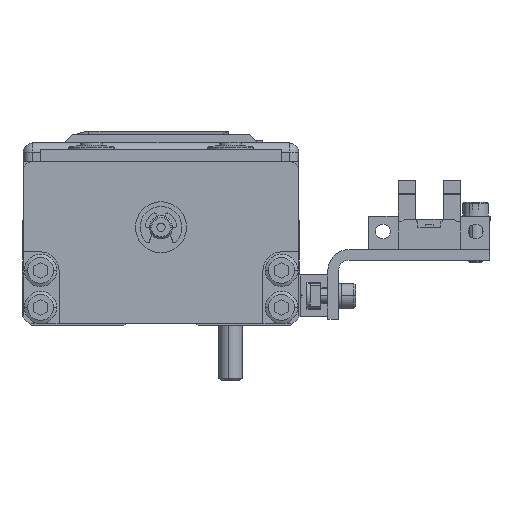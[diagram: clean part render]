
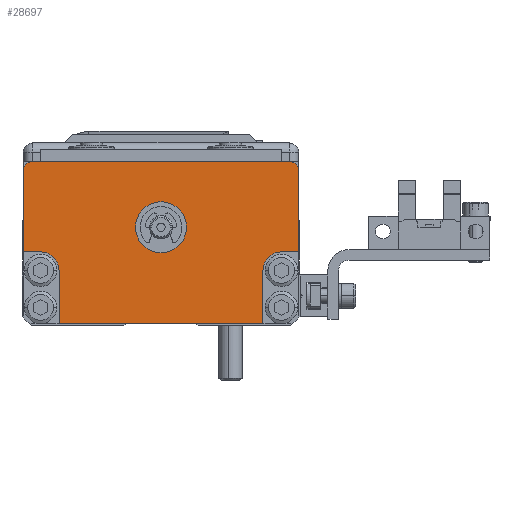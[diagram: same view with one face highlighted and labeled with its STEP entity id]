
A CAD part, left-side view. The second image highlights one B-rep face of the part: STEP entity #28697.
In plain terms, the highlighted planar face has unit normal (-1, 0, 0) as drawn and (1, 0, 0) by its records, which use the part's own axes.
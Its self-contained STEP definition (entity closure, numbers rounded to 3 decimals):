
#575 = CARTESIAN_POINT ( 'NONE',  ( 11., -9.3, 22. ) ) ;
#1215 = DIRECTION ( 'NONE',  ( 0., 1., 0. ) ) ;
#1476 = VERTEX_POINT ( 'NONE', #33427 ) ;
#1865 = VECTOR ( 'NONE', #59098, 1000. ) ;
#2212 = CARTESIAN_POINT ( 'NONE',  ( 11., -20.8, -22. ) ) ;
#2292 = ORIENTED_EDGE ( 'NONE', *, *, #16862, .F. ) ;
#3071 = VERTEX_POINT ( 'NONE', #48964 ) ;
#4400 = VECTOR ( 'NONE', #8915, 1000. ) ;
#5304 = DIRECTION ( 'NONE',  ( 0., 0., 1. ) ) ;
#5457 = CIRCLE ( 'NONE', #53574, 5.5 ) ;
#5976 = DIRECTION ( 'NONE',  ( 1., 0., 0. ) ) ;
#6081 = ORIENTED_EDGE ( 'NONE', *, *, #6658, .F. ) ;
#6234 = CARTESIAN_POINT ( 'NONE',  ( 11., -21.3, 0. ) ) ;
#6442 = ORIENTED_EDGE ( 'NONE', *, *, #52099, .F. ) ;
#6643 = LINE ( 'NONE', #31006, #23474 ) ;
#6658 = EDGE_CURVE ( 'NONE', #46048, #60021, #5457, .T. ) ;
#7630 = ORIENTED_EDGE ( 'NONE', *, *, #14937, .F. ) ;
#8915 = DIRECTION ( 'NONE',  ( 0., 0., 1. ) ) ;
#9201 = CIRCLE ( 'NONE', #60155, 4. ) ;
#9739 = CARTESIAN_POINT ( 'NONE',  ( 11., -20.8, -29.7 ) ) ;
#9959 = CARTESIAN_POINT ( 'NONE',  ( 11., -5.3, 29.7 ) ) ;
#11604 = VECTOR ( 'NONE', #17953, 1000. ) ;
#11993 = CARTESIAN_POINT ( 'NONE',  ( 11., -20.8, 29.7 ) ) ;
#13079 = LINE ( 'NONE', #13227, #11604 ) ;
#13130 = EDGE_CURVE ( 'NONE', #37909, #17597, #6643, .T. ) ;
#13227 = CARTESIAN_POINT ( 'NONE',  ( 11., 14.2, 29.7 ) ) ;
#14397 = LINE ( 'NONE', #9739, #33412 ) ;
#14446 = ORIENTED_EDGE ( 'NONE', *, *, #50173, .F. ) ;
#14863 = DIRECTION ( 'NONE',  ( -1., 0., 0. ) ) ;
#14937 = EDGE_CURVE ( 'NONE', #51862, #3071, #9201, .T. ) ;
#14939 = ORIENTED_EDGE ( 'NONE', *, *, #47213, .F. ) ;
#15531 = CARTESIAN_POINT ( 'NONE',  ( 11., -9.3, -26. ) ) ;
#16084 = LINE ( 'NONE', #26799, #4400 ) ;
#16221 = EDGE_LOOP ( 'NONE', ( #57815, #45965, #38751, #42265, #49368, #6442, #25576, #14446, #7630, #2292, #58412, #14939 ) ) ;
#16331 = CARTESIAN_POINT ( 'NONE',  ( 11., 12.2, -29.7 ) ) ;
#16496 = DIRECTION ( 'NONE',  ( 1., 0., 0. ) ) ;
#16862 = EDGE_CURVE ( 'NONE', #25169, #51862, #38689, .T. ) ;
#17291 = CARTESIAN_POINT ( 'NONE',  ( 11., 0., 0. ) ) ;
#17374 = CIRCLE ( 'NONE', #24741, 5.5 ) ;
#17597 = VERTEX_POINT ( 'NONE', #2212 ) ;
#17747 = DIRECTION ( 'NONE',  ( 0., 0., 1. ) ) ;
#17953 = DIRECTION ( 'NONE',  ( 0., 0., 1. ) ) ;
#18006 = EDGE_CURVE ( 'NONE', #60300, #52235, #13079, .T. ) ;
#18877 = CARTESIAN_POINT ( 'NONE',  ( 11., 14.2, -27.7 ) ) ;
#19944 = DIRECTION ( 'NONE',  ( 0., 0., 1. ) ) ;
#22381 = VERTEX_POINT ( 'NONE', #9959 ) ;
#22746 = DIRECTION ( 'NONE',  ( 0., -1., 0. ) ) ;
#23410 = VECTOR ( 'NONE', #17747, 1000. ) ;
#23474 = VECTOR ( 'NONE', #27774, 1000. ) ;
#23562 = CIRCLE ( 'NONE', #45484, 4. ) ;
#24741 = AXIS2_PLACEMENT_3D ( 'NONE', #50487, #55130, #32034 ) ;
#25169 = VERTEX_POINT ( 'NONE', #35238 ) ;
#25576 = ORIENTED_EDGE ( 'NONE', *, *, #13130, .T. ) ;
#25756 = DIRECTION ( 'NONE',  ( 0., 0., -1. ) ) ;
#25811 = DIRECTION ( 'NONE',  ( 0., 0., -1. ) ) ;
#26158 = FACE_BOUND ( 'NONE', #46247, .T. ) ;
#26799 = CARTESIAN_POINT ( 'NONE',  ( 11., -5.3, 0. ) ) ;
#26882 = CARTESIAN_POINT ( 'NONE',  ( 11., -21.3, -22. ) ) ;
#27774 = DIRECTION ( 'NONE',  ( 0., 0., -1. ) ) ;
#28697 = ADVANCED_FACE ( 'NONE', ( #26158, #44255 ), #34165, .F. ) ;
#29876 = CARTESIAN_POINT ( 'NONE',  ( 11., 14.2, 27.7 ) ) ;
#31006 = CARTESIAN_POINT ( 'NONE',  ( 11., -20.8, 29.7 ) ) ;
#31179 = VERTEX_POINT ( 'NONE', #34214 ) ;
#32034 = DIRECTION ( 'NONE',  ( 0., 0., -1. ) ) ;
#33412 = VECTOR ( 'NONE', #42395, 1000. ) ;
#33427 = CARTESIAN_POINT ( 'NONE',  ( 11., -5.3, 26. ) ) ;
#34165 = PLANE ( 'NONE',  #56872 ) ;
#34214 = CARTESIAN_POINT ( 'NONE',  ( 11., 12.2, 29.7 ) ) ;
#35238 = CARTESIAN_POINT ( 'NONE',  ( 11., -5.3, -29.7 ) ) ;
#36205 = LINE ( 'NONE', #11993, #1865 ) ;
#37071 = CARTESIAN_POINT ( 'NONE',  ( 11., 0., -5.5 ) ) ;
#37672 = DIRECTION ( 'NONE',  ( 1., 0., 0. ) ) ;
#37909 = VERTEX_POINT ( 'NONE', #45687 ) ;
#38634 = EDGE_CURVE ( 'NONE', #40365, #1476, #23562, .T. ) ;
#38689 = LINE ( 'NONE', #40556, #23410 ) ;
#38751 = ORIENTED_EDGE ( 'NONE', *, *, #50725, .T. ) ;
#38848 = DIRECTION ( 'NONE',  ( -1., 0., 0. ) ) ;
#38976 = EDGE_CURVE ( 'NONE', #1476, #22381, #16084, .T. ) ;
#39373 = LINE ( 'NONE', #57057, #56786 ) ;
#40365 = VERTEX_POINT ( 'NONE', #575 ) ;
#40556 = CARTESIAN_POINT ( 'NONE',  ( 11., -5.3, 0. ) ) ;
#41897 = EDGE_CURVE ( 'NONE', #60021, #46048, #17374, .T. ) ;
#42265 = ORIENTED_EDGE ( 'NONE', *, *, #38976, .F. ) ;
#42356 = DIRECTION ( 'NONE',  ( 0., 0., -1. ) ) ;
#42395 = DIRECTION ( 'NONE',  ( 0., 1., 0. ) ) ;
#42722 = AXIS2_PLACEMENT_3D ( 'NONE', #57532, #52669, #19944 ) ;
#44255 = FACE_OUTER_BOUND ( 'NONE', #16221, .T. ) ;
#44874 = CIRCLE ( 'NONE', #42722, 2. ) ;
#45316 = CARTESIAN_POINT ( 'NONE',  ( 11., -5.3, -26. ) ) ;
#45484 = AXIS2_PLACEMENT_3D ( 'NONE', #47212, #37672, #42356 ) ;
#45687 = CARTESIAN_POINT ( 'NONE',  ( 11., -20.8, 22. ) ) ;
#45816 = LINE ( 'NONE', #26882, #57412 ) ;
#45965 = ORIENTED_EDGE ( 'NONE', *, *, #57491, .F. ) ;
#46048 = VERTEX_POINT ( 'NONE', #37071 ) ;
#46247 = EDGE_LOOP ( 'NONE', ( #6081, #49551 ) ) ;
#46406 = AXIS2_PLACEMENT_3D ( 'NONE', #47648, #14863, #5304 ) ;
#47212 = CARTESIAN_POINT ( 'NONE',  ( 11., -9.3, 26. ) ) ;
#47213 = EDGE_CURVE ( 'NONE', #60300, #50618, #44874, .T. ) ;
#47648 = CARTESIAN_POINT ( 'NONE',  ( 11., 12.2, 27.7 ) ) ;
#48964 = CARTESIAN_POINT ( 'NONE',  ( 11., -9.3, -22. ) ) ;
#49368 = ORIENTED_EDGE ( 'NONE', *, *, #38634, .F. ) ;
#49551 = ORIENTED_EDGE ( 'NONE', *, *, #41897, .F. ) ;
#49601 = CARTESIAN_POINT ( 'NONE',  ( 11., 0., 5.5 ) ) ;
#50173 = EDGE_CURVE ( 'NONE', #3071, #17597, #45816, .T. ) ;
#50487 = CARTESIAN_POINT ( 'NONE',  ( 11., 0., 0. ) ) ;
#50618 = VERTEX_POINT ( 'NONE', #16331 ) ;
#50725 = EDGE_CURVE ( 'NONE', #31179, #22381, #36205, .T. ) ;
#51862 = VERTEX_POINT ( 'NONE', #45316 ) ;
#52099 = EDGE_CURVE ( 'NONE', #37909, #40365, #39373, .T. ) ;
#52235 = VERTEX_POINT ( 'NONE', #29876 ) ;
#52669 = DIRECTION ( 'NONE',  ( -1., 0., 0. ) ) ;
#53574 = AXIS2_PLACEMENT_3D ( 'NONE', #17291, #16496, #25756 ) ;
#55130 = DIRECTION ( 'NONE',  ( 1., 0., 0. ) ) ;
#56424 = CIRCLE ( 'NONE', #46406, 2. ) ;
#56522 = DIRECTION ( 'NONE',  ( 0., 0., 1. ) ) ;
#56786 = VECTOR ( 'NONE', #1215, 1000. ) ;
#56872 = AXIS2_PLACEMENT_3D ( 'NONE', #6234, #38848, #56522 ) ;
#57057 = CARTESIAN_POINT ( 'NONE',  ( 11., -21.3, 22. ) ) ;
#57412 = VECTOR ( 'NONE', #22746, 1000. ) ;
#57491 = EDGE_CURVE ( 'NONE', #31179, #52235, #56424, .T. ) ;
#57532 = CARTESIAN_POINT ( 'NONE',  ( 11., 12.2, -27.7 ) ) ;
#57815 = ORIENTED_EDGE ( 'NONE', *, *, #18006, .T. ) ;
#58412 = ORIENTED_EDGE ( 'NONE', *, *, #59120, .T. ) ;
#59098 = DIRECTION ( 'NONE',  ( 0., -1., 0. ) ) ;
#59120 = EDGE_CURVE ( 'NONE', #25169, #50618, #14397, .T. ) ;
#60021 = VERTEX_POINT ( 'NONE', #49601 ) ;
#60155 = AXIS2_PLACEMENT_3D ( 'NONE', #15531, #5976, #25811 ) ;
#60300 = VERTEX_POINT ( 'NONE', #18877 ) ;
